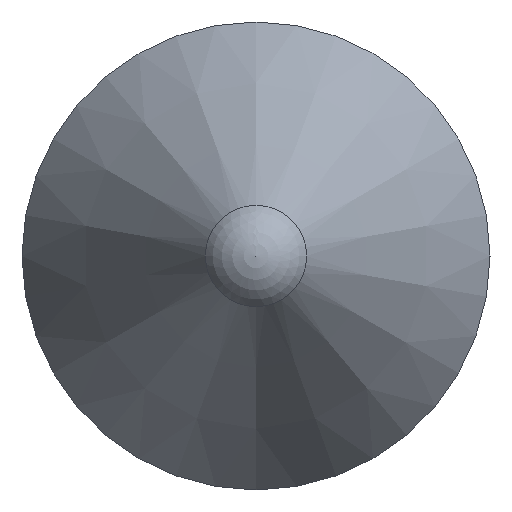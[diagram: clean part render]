
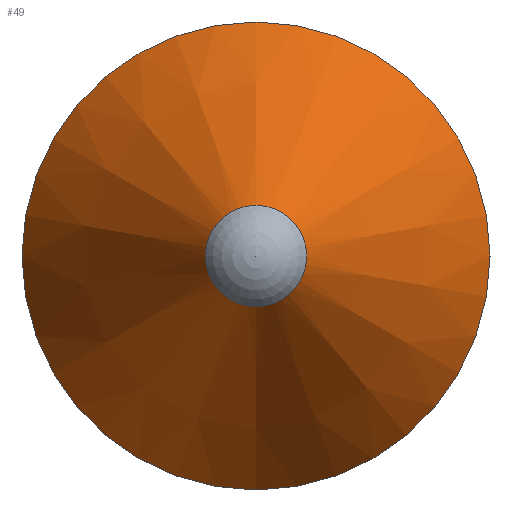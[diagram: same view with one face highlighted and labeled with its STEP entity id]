
A CAD part, left-side view. The second image highlights one B-rep face of the part: STEP entity #49.
In plain terms, the highlighted conical face has half-angle 30 degrees and reference radius 1.216 mm.
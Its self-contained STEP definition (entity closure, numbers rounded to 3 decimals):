
#49=ADVANCED_FACE('',(#59,#61),#63,.T.);
#59=FACE_OUTER_BOUND('',#60,.T.);
#60=EDGE_LOOP('',(#85));
#61=FACE_OUTER_BOUND('',#62,.T.);
#62=EDGE_LOOP('',(#86));
#63=CONICAL_SURFACE('',#64,1.217,0.524);
#64=AXIS2_PLACEMENT_3D('',#65,#66,#67);
#65=CARTESIAN_POINT('',(-13.193,0.,0.));
#66=DIRECTION('',(1.,0.,0.));
#67=DIRECTION('',(0.,0.,-1.));
#85=ORIENTED_EDGE('',*,*,#91,.T.);
#86=ORIENTED_EDGE('',*,*,#90,.F.);
#90=EDGE_CURVE('',#93,#93,#94,.T.);
#91=EDGE_CURVE('',#95,#95,#96,.T.);
#93=VERTEX_POINT('',#99);
#94=CIRCLE('',#100,0.433);
#95=VERTEX_POINT('',#104);
#96=CIRCLE('',#105,2.);
#99=CARTESIAN_POINT('',(-14.55,0.,0.433));
#100=AXIS2_PLACEMENT_3D('',#101,#102,#103);
#101=CARTESIAN_POINT('',(-14.55,0.,0.));
#102=DIRECTION('',(-1.,0.,0.));
#103=DIRECTION('',(0.,0.,1.));
#104=CARTESIAN_POINT('',(-11.836,0.,2.));
#105=AXIS2_PLACEMENT_3D('',#106,#107,#108);
#106=CARTESIAN_POINT('',(-11.836,0.,0.));
#107=DIRECTION('',(-1.,0.,0.));
#108=DIRECTION('',(0.,0.,1.));
